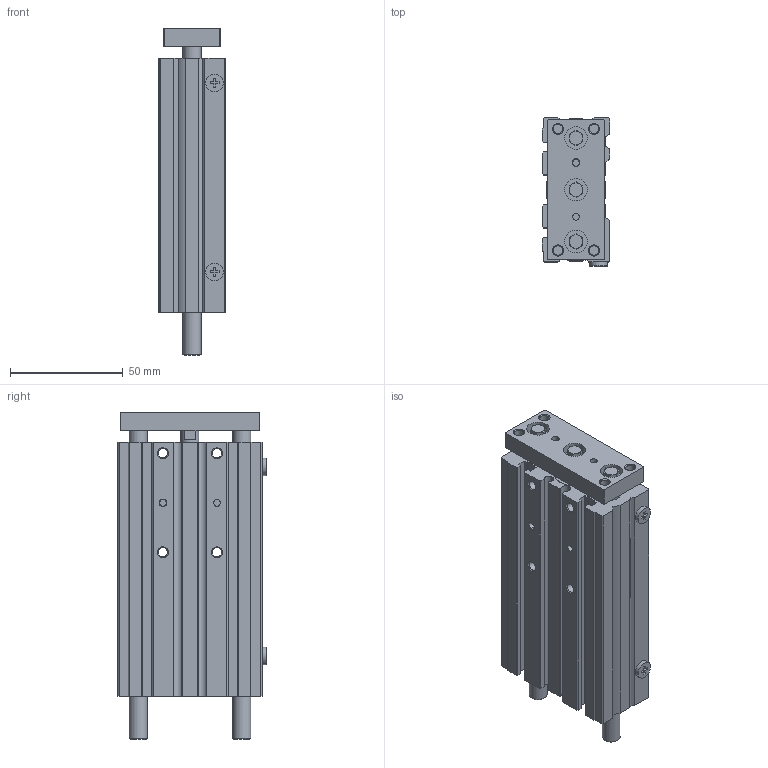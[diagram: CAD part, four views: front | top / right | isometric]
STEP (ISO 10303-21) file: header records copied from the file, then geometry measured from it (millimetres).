
FILE_DESCRIPTION( ( 'STEP AP214' ), '1' );
FILE_NAME( 'C:/Users/emc02044/Desktop/SGL SGM/SGL16X80-S.stp', '2026-07-24T02:14:39', ( 'License CC BY-ND 4.0' ), ( 'CADENAS' ), ' ', 'PARTsolutions', ' ' );
FILE_SCHEMA( ( 'AUTOMOTIVE_DESIGN { 1 0 10303 214 1 1 1 1 }' ) );
Length unit declared in the file: millimetre
Products named in the file (4): SGL16X80X0-S(); _SGL16x80-M(SG:Shaft cylinderL16X80X0-S:with magnet()dummy-0) 0; _SGL16x80-M(-0)-body; _SGL16x80-M(-0)-rod
Assembly tree (3 placements, depth 2):
  SGL16X80X0-S()
    _SGL16x80-M(SG:Shaft cylinderL16X80X0-S:with magnet()dummy-0) 0
    _SGL16x80-M(-0)-body
    _SGL16x80-M(-0)-rod
Bounding box: 30 x 65.8 x 145 mm (x, y, z)
Volume: 171409.9 mm3; surface area: 65803.6 mm2
Topology: 2 solids, 4 shells, 352 faces, 863 edges, 556 vertices
Faces by surface type: plane 186, cylinder 107, cone 59
Full cylindrical faces by diameter (mm): 3 x6, 4.134 x16, 4.2 x4, 7.8 x2, 8 x10, 10 x3, 13 x2, 16 x2, 18 x2
Entity records: 12924 total; most frequent: CARTESIAN_POINT 1977, DIRECTION 1682, ORIENTED_EDGE 1562, EDGE_CURVE 781, AXIS2_PLACEMENT_3D 633, VERTEX_POINT 543, EDGE_LOOP 478, LINE 416
